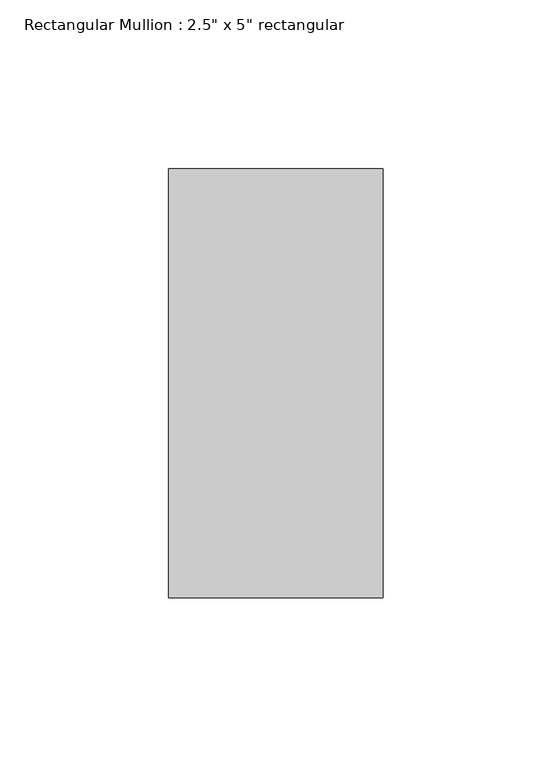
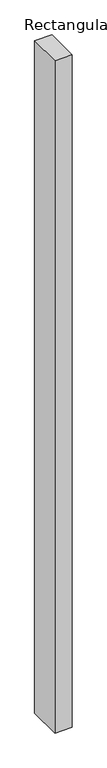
"""IFC4 building model written with IfcOpenShell, lengths in millimetres: member geometry."""

import ifcopenshell
import ifcopenshell.guid

model = None  # the IFC model being written
_history = None  # IfcOwnerHistory: only IFC2X3 demands one
_inside = {}  # id of a spatial element -> (the spatial element, [elements in it])
_under = {}  # id of a project, library or spatial element -> (it, [spatial elements below it])
_declared = {}  # id of a project -> (the project, [libraries it declares])
_typed = {}  # id of a type object -> (the type object, [elements of that type])
_made_of = {}  # id of a material, layer set ... -> (it, [elements and type objects made of it])


def new_model(schema):
    """Start an empty IFC model of exactly this schema.

    Asked for "IFC4X3", IfcOpenShell would pick the latest addendum, in which some entities
    have other attributes; the version numbers below select the first issue.
    IFC2X3 requires an IfcOwnerHistory on every rooted entity: one is made here for all.
    """
    global model, _history
    if schema == "IFC4X3":
        model = ifcopenshell.file(schema_version=(4, 3, 0, 0))
    else:
        model = ifcopenshell.file(schema=schema)
    _inside.clear()
    _under.clear()
    _declared.clear()
    _typed.clear()
    _made_of.clear()
    _history = None
    if model.schema == "IFC2X3":
        org = make("IfcOrganization", Name="unknown")
        user = make(
            "IfcPersonAndOrganization",
            ThePerson=make("IfcPerson", FamilyName="unknown"),
            TheOrganization=org,
        )
        app = make(
            "IfcApplication",
            ApplicationDeveloper=org,
            Version="unknown",
            ApplicationFullName="unknown",
            ApplicationIdentifier="unknown",
        )
        _history = make(
            "IfcOwnerHistory",
            OwningUser=user,
            OwningApplication=app,
            ChangeAction="ADDED",
            CreationDate=0,
        )
    return model


def make(cls, **values):
    """One entity of the class cls with the attributes given. An attribute that is None is left unset."""
    return model.create_entity(
        cls, **{name: value for name, value in values.items() if value is not None}
    )


def rooted(cls, **values):
    """An entity with a GlobalId (a new one), such as an element, a storey or a relation."""
    return make(cls, GlobalId=ifcopenshell.guid.new(), OwnerHistory=_history, **values)


def si_unit(unit_type, name, prefix=None):
    """IfcSIUnit, for example si_unit("LENGTHUNIT", "METRE", prefix="MILLI")."""
    return make("IfcSIUnit", UnitType=unit_type, Prefix=prefix, Name=name)


def assignment(units):
    """IfcUnitAssignment: the units of a project."""
    return None if units is None else make("IfcUnitAssignment", Units=units)


def point(xyz):
    """IfcCartesianPoint."""
    return None if xyz is None else make("IfcCartesianPoint", Coordinates=xyz)


def direction(xyz):
    """IfcDirection."""
    return None if xyz is None else make("IfcDirection", DirectionRatios=xyz)


def frame(location, z_axis=None, x_axis=None):
    """IfcAxis2Placement3D, a coordinate frame: its origin and axes. An axis left out is left unset."""
    return make(
        "IfcAxis2Placement3D",
        Location=point(location),
        Axis=direction(z_axis),
        RefDirection=direction(x_axis),
    )


def origin():
    """The frame at (0, 0, 0) with its axes left unset."""
    return frame((0.0, 0.0, 0.0))


def place(relative_to, where):
    """IfcLocalPlacement: puts the frame where relative to a parent placement (None: the world)."""
    return make(
        "IfcLocalPlacement", PlacementRelTo=relative_to, RelativePlacement=where
    )


def context(
    kind, dimensions, precision=None, world=None, true_north=None, identifier=None
):
    """IfcGeometricRepresentationContext, for example the 3D "Model" context."""
    return make(
        "IfcGeometricRepresentationContext",
        ContextIdentifier=identifier,
        ContextType=kind,
        CoordinateSpaceDimension=dimensions,
        Precision=precision,
        WorldCoordinateSystem=world,
        TrueNorth=true_north,
    )


def project(units=None, contexts=None):
    """IfcProject with its units and contexts."""
    return rooted(
        "IfcProject",
        Name="project",
        RepresentationContexts=contexts,
        UnitsInContext=assignment(units),
    )


def spatial(cls, under=None, at=None, **own):
    """A site, building, storey or space (cls), placed at a placement, below another one or the project."""
    s = rooted(cls, ObjectPlacement=at, **own)
    if under is not None:
        _under.setdefault(under.id(), (under, []))[1].append(s)
    return s


def polyline(points):
    """IfcPolyline through the points."""
    return make("IfcPolyline", Points=[point(p) for p in points])


def outline(outer, holes=None, kind="AREA"):
    """IfcArbitraryClosedProfileDef: a profile drawn as a closed curve; with holes, ...WithVoids."""
    if holes is None:
        return make("IfcArbitraryClosedProfileDef", ProfileType=kind, OuterCurve=outer)
    return make(
        "IfcArbitraryProfileDefWithVoids",
        ProfileType=kind,
        OuterCurve=outer,
        InnerCurves=holes,
    )


def extrude(swept, where, along, depth):
    """IfcExtrudedAreaSolid: the profile swept, set in the frame where, extruded along a direction by depth."""
    return make(
        "IfcExtrudedAreaSolid",
        SweptArea=swept,
        Position=where,
        ExtrudedDirection=direction(along),
        Depth=depth,
    )


def shape(context_of_items, identifier, shape_type, items):
    """IfcShapeRepresentation: the items that make up one representation, for example the "Body"."""
    return make(
        "IfcShapeRepresentation",
        ContextOfItems=context_of_items,
        RepresentationIdentifier=identifier,
        RepresentationType=shape_type,
        Items=items,
    )


def source(mapping_origin, context_of_items, identifier, shape_type, items):
    """IfcRepresentationMap: a shape defined once, which mapped items show again and again."""
    return make(
        "IfcRepresentationMap",
        MappingOrigin=mapping_origin,
        MappedRepresentation=shape(context_of_items, identifier, shape_type, items),
    )


def transform(
    local_origin,
    x_axis=None,
    y_axis=None,
    z_axis=None,
    scale=None,
    scale2=None,
    scale3=None,
    uniform=True,
):
    """IfcCartesianTransformationOperator3D, or its non-uniform kind. x_axis, y_axis, z_axis: its Axis1, 2, 3."""
    if uniform:
        return make(
            "IfcCartesianTransformationOperator3D",
            Axis1=direction(x_axis),
            Axis2=direction(y_axis),
            LocalOrigin=point(local_origin),
            Scale=scale,
            Axis3=direction(z_axis),
        )
    return make(
        "IfcCartesianTransformationOperator3DnonUniform",
        Axis1=direction(x_axis),
        Axis2=direction(y_axis),
        LocalOrigin=point(local_origin),
        Scale=scale,
        Axis3=direction(z_axis),
        Scale2=scale2,
        Scale3=scale3,
    )


def mapped(mapping_source, mapping_target):
    """IfcMappedItem: shows the shape of a source again, moved by a transform."""
    return make(
        "IfcMappedItem", MappingSource=mapping_source, MappingTarget=mapping_target
    )


def made_of(thing, what):
    """Note that an element or type object is made of a material, layer set ...; save() writes the relation."""
    if what is not None:
        _made_of.setdefault(what.id(), (what, []))[1].append(thing)
    return thing


def element(
    cls,
    number,
    at=None,
    inside=None,
    cuts=None,
    type_object=None,
    material=None,
    context=None,
    identifier="Body",
    shape_type=None,
    held_by="IfcProductDefinitionShape",
    body=None,
    shapes=None,
    **own,
):
    """One element of the class cls, such as IfcWall. Its Tag is "e" and its number.

    at: its placement. inside: the storey or other place that contains it. cuts: it is an
    opening in that element (IfcRelVoidsElement). A single representation is given by context,
    identifier, shape_type and body (its items); several are given by shapes. held_by: the class
    of the entity that holds the representations. save() writes the other relations.
    """
    e = rooted(cls, Tag="e%d" % number, ObjectPlacement=at, **own)
    if body is not None:
        shapes = [shape(context, identifier, shape_type, body)]
    if shapes is not None:
        e.Representation = make(held_by, Representations=shapes)
    if inside is not None:
        _inside.setdefault(inside.id(), (inside, []))[1].append(e)
    if cuts is not None:
        rooted(
            "IfcRelVoidsElement", RelatingBuildingElement=cuts, RelatedOpeningElement=e
        )
    if type_object is not None:
        _typed.setdefault(type_object.id(), (type_object, []))[1].append(e)
    return made_of(e, material)


def aggregate(whole, parts):
    """IfcRelAggregates: a whole, such as a stair, and the parts it consists of."""
    return rooted("IfcRelAggregates", RelatingObject=whole, RelatedObjects=parts)


def save(model, path):
    """Write the relations noted so far, then the file.

    IfcRelAggregates (storeys below a building ...), IfcRelContainedInSpatialStructure (elements
    in a storey), IfcRelDefinesByType, IfcRelAssociatesMaterial and IfcRelDeclares: one each for
    every whole, place, type object, material and project.
    """
    for whole, parts in _under.values():
        aggregate(whole, parts)
    for where, things in _inside.values():
        rooted(
            "IfcRelContainedInSpatialStructure",
            RelatedElements=things,
            RelatingStructure=where,
        )
    for kind, things in _typed.values():
        rooted("IfcRelDefinesByType", RelatedObjects=things, RelatingType=kind)
    for what, things in _made_of.values():
        rooted("IfcRelAssociatesMaterial", RelatedObjects=things, RelatingMaterial=what)
    for by, libraries in _declared.values():
        rooted("IfcRelDeclares", RelatingContext=by, RelatedDefinitions=libraries)
    model.write(path)


def member_cc0a3030(model_context):
    return source(origin(), model_context, "Body", "SweptSolid", [
        extrude(outline(polyline([(31.75, 63.5), (31.75, -63.5), (-31.75, -63.5), (-31.75, 63.5), (31.75, 63.5)])), frame((0.0, 0.0, -2590.8), z_axis=(0.0, 0.0, 1.0), x_axis=(1.0, 0.0, 0.0)), (0.0, 0.0, 1.0), 2590.8),
    ])


if __name__ == "__main__":
    model = new_model("IFC4")
    model_context = context("Model", 3, world=origin())
    ifc_project = project(units=[si_unit("LENGTHUNIT", "METRE", prefix="MILLI")], contexts=[model_context])
    site = spatial("IfcSite", under=ifc_project)
    building = spatial("IfcBuilding", under=site)
    placement = place(None, origin())
    member_shape = member_cc0a3030(model_context)
    element("IfcMember", 1, ObjectType="Rectangular Mullion : 2.5\" x 5\" rectangular", at=placement, inside=building, context=model_context, shape_type="MappedRepresentation", body=[
        mapped(member_shape, transform((0.0, 0.0, 0.0), x_axis=(1.0, 0.0, 0.0), y_axis=(0.0, 1.0, 0.0), z_axis=(0.0, 0.0, 1.0))),
    ])
    save(model, "model.ifc")
